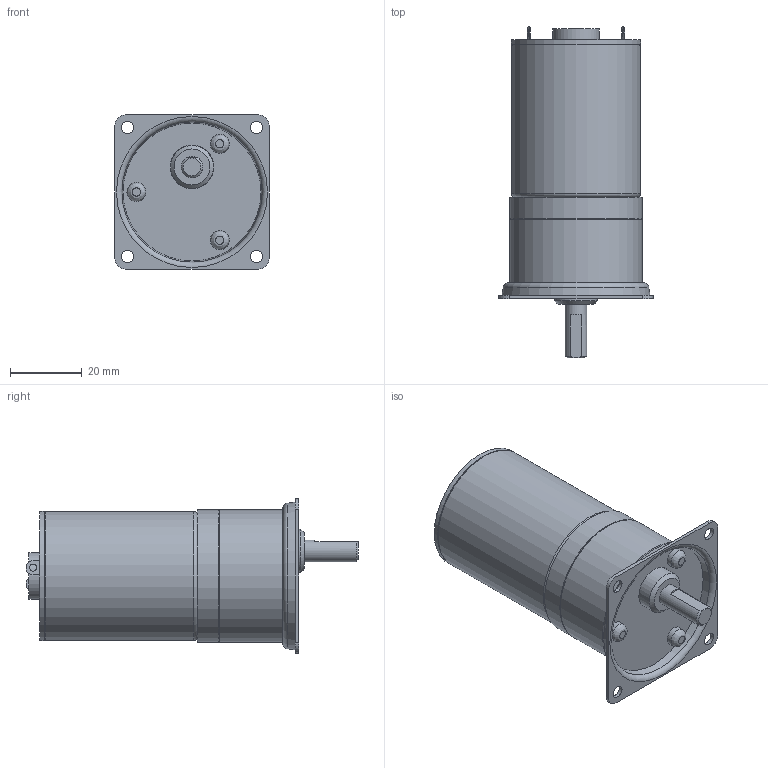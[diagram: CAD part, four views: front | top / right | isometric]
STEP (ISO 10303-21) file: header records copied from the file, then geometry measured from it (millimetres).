
FILE_DESCRIPTION((''),'2;1');
FILE_NAME('C:\Documents and Settings\SSEGAWA\デスクトップ\TP-3644D-PHM-2.STP','2013-07-25T17:51:41',('SSEGAWA'),(''),'Autodesk Inventor 2010','Autodesk Inventor 2010','');
FILE_SCHEMA(('CONFIG_CONTROL_DESIGN'));
Length unit declared in the file: millimetre
Products named in the file (1): tp_3644dh_phm-2_Shrinkwrap_1
Bounding box: 43 x 92.6 x 43 mm (x, y, z)
Volume: 73699.8 mm3; surface area: 14156.6 mm2
Topology: 1 solids, 9 shells, 97 faces, 203 edges, 136 vertices
Faces by surface type: plane 42, cylinder 25, bspline 23, cone 4, torus 3
Full cylindrical faces by diameter (mm): 3 x1, 3.5 x1, 5.3 x3, 6 x1, 12 x1, 12.2 x1, 13 x1, 35.6 x1, 36 x2, 36.6 x1, 37 x2
Entity records: 2693 total; most frequent: CARTESIAN_POINT 819, DIRECTION 371, ORIENTED_EDGE 268, EDGE_LOOP 165, AXIS2_PLACEMENT_3D 164, EDGE_CURVE 134, VERTEX_POINT 111, STYLED_ITEM 98
